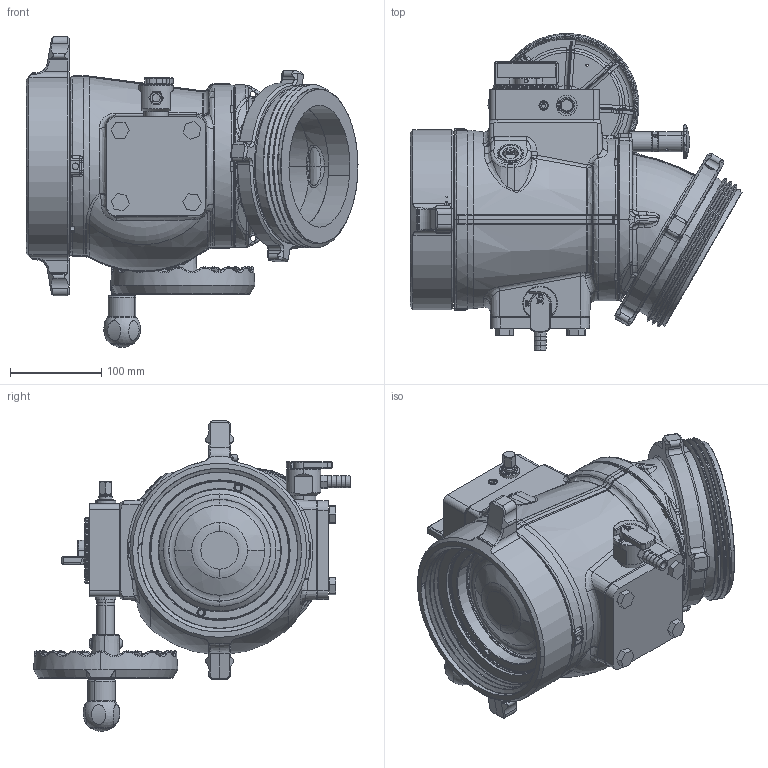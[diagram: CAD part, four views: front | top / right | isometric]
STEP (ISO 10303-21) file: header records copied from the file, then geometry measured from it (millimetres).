
FILE_DESCRIPTION (( 'STEP AP203' ), '1' );
FILE_NAME ('AZ8NX-NX.step', '2014-05-13T19:30:16', ( 'user' ), ( '' ), 'SwSTEP 2.0', 'SolidWorks 2012', '' );
FILE_SCHEMA (( 'CONFIG_CONTROL_DESIGN' ));
Length unit declared in the file: inch
Products named in the file (1): AZ8NX-NX
Bounding box: 363 x 346.52 x 339.79 mm (x, y, z)
Surface area: 620258.7 mm2 (no closed solid volume)
Topology: 0 solids, 149 shells, 1914 faces, 9262 edges, 7347 vertices
Faces by surface type: plane 607, bspline 426, cylinder 410, cone 258, torus 183, sphere 30
Entity records: 133252 total; most frequent: CARTESIAN_POINT 67052, ORIENTED_EDGE 13027, DIRECTION 11594, EDGE_CURVE 9235, VERTEX_POINT 7343, VECTOR 4314, LINE 4314, AXIS2_PLACEMENT_3D 3640
